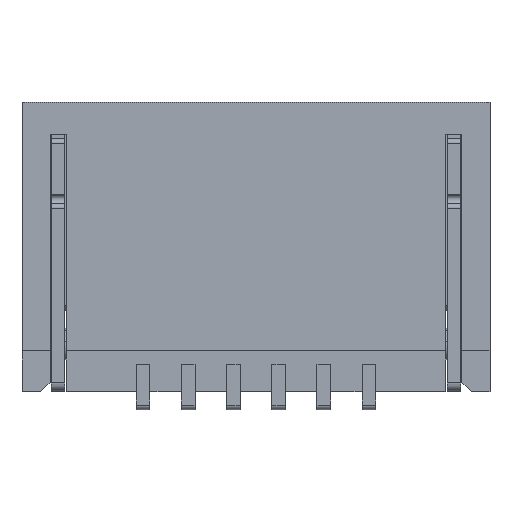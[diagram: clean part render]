
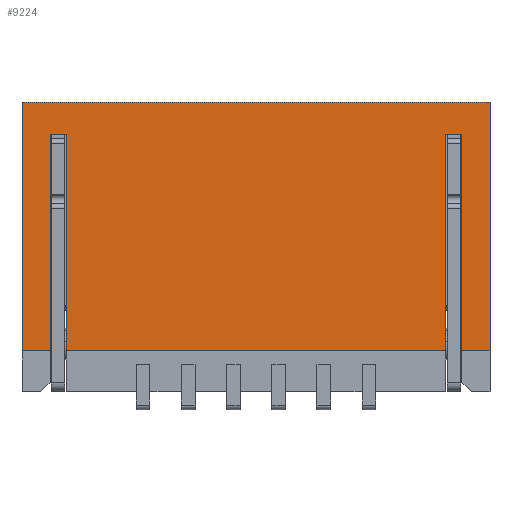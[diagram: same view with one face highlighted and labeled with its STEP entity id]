
A CAD part, front view. The second image highlights one B-rep face of the part: STEP entity #9224.
In plain terms, the highlighted planar face has unit normal (0, -1, 0).
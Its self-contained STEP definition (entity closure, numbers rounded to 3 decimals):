
#2561=DIRECTION('',(-1.,0.,0.));
#2562=VECTOR('',#2561,5.18);
#2563=CARTESIAN_POINT('',(12.18,0.,0.));
#2564=LINE('',#2563,#2562);
#2577=DIRECTION('',(0.,0.,-1.));
#2578=VECTOR('',#2577,2.4);
#2579=CARTESIAN_POINT('',(7.49,0.,-0.35));
#2580=LINE('',#2579,#2578);
#2621=DIRECTION('',(1.,0.,0.));
#2622=VECTOR('',#2621,0.18);
#2623=CARTESIAN_POINT('',(7.31,0.,-0.35));
#2624=LINE('',#2623,#2622);
#3113=DIRECTION('',(0.,0.,1.));
#3114=VECTOR('',#3113,2.4);
#3115=CARTESIAN_POINT('',(7.31,0.,-2.75));
#3116=LINE('',#3115,#3114);
#3185=DIRECTION('',(0.,0.,-1.));
#3186=VECTOR('',#3185,2.75);
#3187=CARTESIAN_POINT('',(7.,0.,0.));
#3188=LINE('',#3187,#3186);
#3193=DIRECTION('',(-1.,0.,0.));
#3194=VECTOR('',#3193,4.2);
#3195=CARTESIAN_POINT('',(11.69,0.,-2.75));
#3196=LINE('',#3195,#3194);
#3197=DIRECTION('',(-1.,0.,0.));
#3198=VECTOR('',#3197,0.31);
#3199=CARTESIAN_POINT('',(7.31,0.,-2.75));
#3200=LINE('',#3199,#3198);
#3201=DIRECTION('',(0.,0.,-1.));
#3202=VECTOR('',#3201,2.75);
#3203=CARTESIAN_POINT('',(12.18,0.,0.));
#3204=LINE('',#3203,#3202);
#3205=DIRECTION('',(-1.,0.,0.));
#3206=VECTOR('',#3205,0.31);
#3207=CARTESIAN_POINT('',(12.18,0.,-2.75));
#3208=LINE('',#3207,#3206);
#3209=DIRECTION('',(0.,0.,1.));
#3210=VECTOR('',#3209,2.4);
#3211=CARTESIAN_POINT('',(11.87,0.,-2.75));
#3212=LINE('',#3211,#3210);
#3213=DIRECTION('',(-1.,0.,0.));
#3214=VECTOR('',#3213,0.18);
#3215=CARTESIAN_POINT('',(11.87,0.,-0.35));
#3216=LINE('',#3215,#3214);
#3217=DIRECTION('',(0.,0.,-1.));
#3218=VECTOR('',#3217,2.4);
#3219=CARTESIAN_POINT('',(11.69,0.,-0.35));
#3220=LINE('',#3219,#3218);
#4045=CARTESIAN_POINT('',(12.18,0.,0.));
#4046=CARTESIAN_POINT('',(7.,0.,0.));
#4047=VERTEX_POINT('',#4045);
#4048=VERTEX_POINT('',#4046);
#4069=CARTESIAN_POINT('',(11.69,0.,-2.75));
#4070=CARTESIAN_POINT('',(7.49,0.,-2.75));
#4071=VERTEX_POINT('',#4069);
#4072=VERTEX_POINT('',#4070);
#4073=CARTESIAN_POINT('',(7.49,0.,-0.35));
#4074=VERTEX_POINT('',#4073);
#4075=CARTESIAN_POINT('',(7.31,0.,-0.35));
#4076=VERTEX_POINT('',#4075);
#4077=CARTESIAN_POINT('',(7.31,0.,-2.75));
#4078=VERTEX_POINT('',#4077);
#4079=CARTESIAN_POINT('',(7.,0.,-2.75));
#4080=VERTEX_POINT('',#4079);
#4081=CARTESIAN_POINT('',(12.18,0.,-2.75));
#4082=VERTEX_POINT('',#4081);
#4083=CARTESIAN_POINT('',(11.87,0.,-2.75));
#4084=VERTEX_POINT('',#4083);
#4085=CARTESIAN_POINT('',(11.87,0.,-0.35));
#4086=VERTEX_POINT('',#4085);
#4087=CARTESIAN_POINT('',(11.69,0.,-0.35));
#4088=VERTEX_POINT('',#4087);
#9198=CARTESIAN_POINT('',(9.59,0.,-1.375));
#9199=DIRECTION('',(0.,1.,0.));
#9200=DIRECTION('',(0.,0.,-1.));
#9201=AXIS2_PLACEMENT_3D('',#9198,#9199,#9200);
#9202=PLANE('',#9201);
#9204=ORIENTED_EDGE('',*,*,#9203,.T.);
#9205=ORIENTED_EDGE('',*,*,#8503,.F.);
#9206=ORIENTED_EDGE('',*,*,#8533,.F.);
#9207=ORIENTED_EDGE('',*,*,#9041,.F.);
#9209=ORIENTED_EDGE('',*,*,#9208,.T.);
#9210=ORIENTED_EDGE('',*,*,#9191,.F.);
#9211=ORIENTED_EDGE('',*,*,#8467,.F.);
#9213=ORIENTED_EDGE('',*,*,#9212,.T.);
#9215=ORIENTED_EDGE('',*,*,#9214,.T.);
#9217=ORIENTED_EDGE('',*,*,#9216,.T.);
#9219=ORIENTED_EDGE('',*,*,#9218,.T.);
#9221=ORIENTED_EDGE('',*,*,#9220,.T.);
#9222=EDGE_LOOP('',(#9204,#9205,#9206,#9207,#9209,#9210,#9211,#9213,#9215,#9217,
#9219,#9221));
#9223=FACE_OUTER_BOUND('',#9222,.F.);
#9224=ADVANCED_FACE('',(#9223),#9202,.F.);
#8467=EDGE_CURVE('',#4047,#4048,#2564,.T.);
#8503=EDGE_CURVE('',#4074,#4072,#2580,.T.);
#8533=EDGE_CURVE('',#4076,#4074,#2624,.T.);
#9041=EDGE_CURVE('',#4078,#4076,#3116,.T.);
#9191=EDGE_CURVE('',#4048,#4080,#3188,.T.);
#9203=EDGE_CURVE('',#4071,#4072,#3196,.T.);
#9208=EDGE_CURVE('',#4078,#4080,#3200,.T.);
#9212=EDGE_CURVE('',#4047,#4082,#3204,.T.);
#9214=EDGE_CURVE('',#4082,#4084,#3208,.T.);
#9216=EDGE_CURVE('',#4084,#4086,#3212,.T.);
#9218=EDGE_CURVE('',#4086,#4088,#3216,.T.);
#9220=EDGE_CURVE('',#4088,#4071,#3220,.T.);
